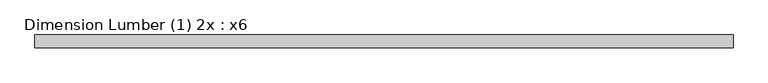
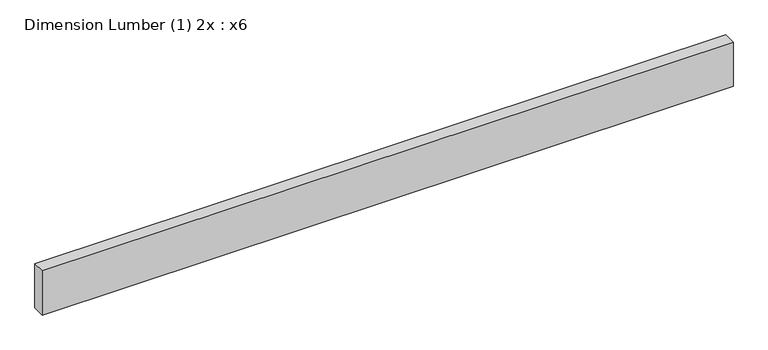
"""IFC4 building model written with IfcOpenShell, lengths in millimetres: beam geometry, Dimension Lumber (1) 2x : x6."""

from ifc_helpers import new_model, si_unit, frame, origin, place, context, project, spatial, polyline, outline, extrude, source, transform, mapped, element, save


def dimension_lumber_1_2x_x6_e9ca1189(model_context):
    return source(origin(), model_context, "Body", "SweptSolid", [
        extrude(outline(polyline([(1035.05, 19.05), (1035.05, -19.05), (-1035.05, -19.05), (-1035.05, 19.05), (1035.05, 19.05)])), frame((0.0, 0.0, -69.85), z_axis=(0.0, 0.0, 1.0), x_axis=(1.0, 0.0, 0.0)), (0.0, 0.0, 1.0), 139.7),
    ])


if __name__ == "__main__":
    model = new_model("IFC4")
    model_context = context("Model", 3, world=origin())
    ifc_project = project(units=[si_unit("LENGTHUNIT", "METRE", prefix="MILLI")], contexts=[model_context])
    site = spatial("IfcSite", under=ifc_project)
    building = spatial("IfcBuilding", under=site)
    placement = place(None, origin())
    dimension_lumber_1_2x_x6_shape = dimension_lumber_1_2x_x6_e9ca1189(model_context)
    element("IfcBeam", 1, ObjectType="Dimension Lumber (1) 2x : x6", at=placement, inside=building, context=model_context, shape_type="MappedRepresentation", body=[
        mapped(dimension_lumber_1_2x_x6_shape, transform((0.0, 0.0, 0.0), x_axis=(1.0, 0.0, 0.0), y_axis=(0.0, 1.0, 0.0), z_axis=(0.0, 0.0, 1.0))),
    ])
    save(model, "model.ifc")
